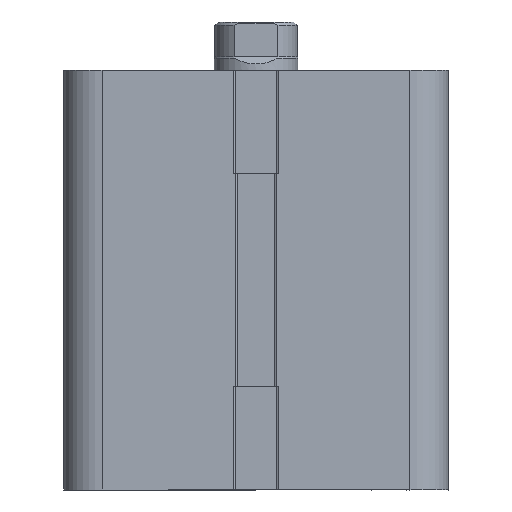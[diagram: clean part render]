
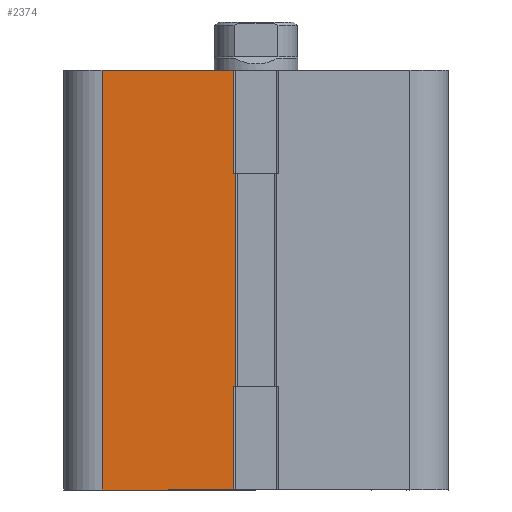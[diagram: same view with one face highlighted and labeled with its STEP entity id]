
A CAD part, front view. The second image highlights one B-rep face of the part: STEP entity #2374.
In plain terms, the highlighted planar face has unit normal (0, -1, 0).
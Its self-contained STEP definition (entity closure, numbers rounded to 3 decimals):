
#582 = ORIENTED_EDGE ( 'NONE', *, *, #822, .F. ) ;
#583 = ORIENTED_EDGE ( 'NONE', *, *, #10327, .F. ) ;
#584 = ORIENTED_EDGE ( 'NONE', *, *, #2582, .T. ) ;
#585 = ORIENTED_EDGE ( 'NONE', *, *, #10328, .T. ) ;
#822 = EDGE_CURVE ( 'NONE', #12155, #12156, #9017, .T. ) ;
#1145 = LINE ( 'NONE', #1446, #1147 ) ;
#1147 = VECTOR ( 'NONE', #1447, 1000. ) ;
#1446 = CARTESIAN_POINT ( 'NONE',  ( -27.5, -27.5, 30.5 ) ) ;
#1447 = DIRECTION ( 'NONE',  ( 1., 0., 0. ) ) ;
#1655 = CARTESIAN_POINT ( 'NONE',  ( -3.15, -27.5, -14.75 ) ) ;
#1656 = CARTESIAN_POINT ( 'NONE',  ( -22., -27.5, -14.75 ) ) ;
#1727 = CARTESIAN_POINT ( 'NONE',  ( -22., -27.5, 45.25 ) ) ;
#1728 = CARTESIAN_POINT ( 'NONE',  ( -3.15, -27.5, 45.25 ) ) ;
#1841 = CARTESIAN_POINT ( 'NONE',  ( -3.15, -27.5, 30.5 ) ) ;
#1842 = CARTESIAN_POINT ( 'NONE',  ( -2.875, -27.5, 30.5 ) ) ;
#1982 = CARTESIAN_POINT ( 'NONE',  ( -3.15, -27.5, 0. ) ) ;
#2030 = CARTESIAN_POINT ( 'NONE',  ( -2.875, -27.5, 0. ) ) ;
#2374 = ADVANCED_FACE ( 'NONE', ( #9318 ), #5903, .F. ) ;
#2582 = EDGE_CURVE ( 'NONE', #12484, #12532, #3232, .T. ) ;
#2721 = EDGE_CURVE ( 'NONE', #12227, #12228, #3446, .T. ) ;
#2937 = DIRECTION ( 'NONE',  ( 1., 0., 0. ) ) ;
#2941 = CARTESIAN_POINT ( 'NONE',  ( -27.5, -27.5, 0. ) ) ;
#3232 = LINE ( 'NONE', #2941, #3234 ) ;
#3234 = VECTOR ( 'NONE', #2937, 1000. ) ;
#3446 = LINE ( 'NONE', #6477, #3448 ) ;
#3448 = VECTOR ( 'NONE', #6478, 1000. ) ;
#4962 = CARTESIAN_POINT ( 'NONE',  ( -2.95, -27.5, -14.75 ) ) ;
#4963 = DIRECTION ( 'NONE',  ( -1., 0., 0. ) ) ;
#5482 = AXIS2_PLACEMENT_3D ( 'NONE', #5896, #5905, #5906 ) ;
#5896 = CARTESIAN_POINT ( 'NONE',  ( -27.5, -27.5, 30.5 ) ) ;
#5903 = PLANE ( 'NONE',  #5482 ) ;
#5905 = DIRECTION ( 'NONE',  ( 0., 1., 0. ) ) ;
#5906 = DIRECTION ( 'NONE',  ( 0., 0., 1. ) ) ;
#6477 = CARTESIAN_POINT ( 'NONE',  ( -27.5, -27.5, 45.25 ) ) ;
#6478 = DIRECTION ( 'NONE',  ( 1., 0., 0. ) ) ;
#7195 = CARTESIAN_POINT ( 'NONE',  ( -22., -27.5, 30.5 ) ) ;
#7196 = DIRECTION ( 'NONE',  ( 0., 0., -1. ) ) ;
#7197 = CARTESIAN_POINT ( 'NONE',  ( -3.15, -27.5, 108.982 ) ) ;
#7198 = DIRECTION ( 'NONE',  ( 0., 0., -1. ) ) ;
#7199 = CARTESIAN_POINT ( 'NONE',  ( -2.875, -27.5, 30.5 ) ) ;
#7200 = DIRECTION ( 'NONE',  ( 0., 0., 1. ) ) ;
#7201 = CARTESIAN_POINT ( 'NONE',  ( -3.15, -27.5, 108.982 ) ) ;
#7203 = DIRECTION ( 'NONE',  ( 0., 0., -1. ) ) ;
#7445 = LINE ( 'NONE', #7195, #7448 ) ;
#7447 = LINE ( 'NONE', #7197, #7450 ) ;
#7448 = VECTOR ( 'NONE', #7196, 1000. ) ;
#7449 = LINE ( 'NONE', #7199, #7452 ) ;
#7450 = VECTOR ( 'NONE', #7198, 1000. ) ;
#7451 = LINE ( 'NONE', #7201, #7454 ) ;
#7452 = VECTOR ( 'NONE', #7200, 1000. ) ;
#7454 = VECTOR ( 'NONE', #7203, 1000. ) ;
#7842 = ORIENTED_EDGE ( 'NONE', *, *, #11361, .F. ) ;
#7843 = ORIENTED_EDGE ( 'NONE', *, *, #10329, .F. ) ;
#7844 = ORIENTED_EDGE ( 'NONE', *, *, #2721, .F. ) ;
#8291 = ORIENTED_EDGE ( 'NONE', *, *, #10326, .T. ) ;
#8352 = EDGE_LOOP ( 'NONE', ( #8291, #582, #583, #584, #585, #7842, #7843, #7844 ) ) ;
#9017 = LINE ( 'NONE', #4962, #9020 ) ;
#9020 = VECTOR ( 'NONE', #4963, 1000. ) ;
#9318 = FACE_OUTER_BOUND ( 'NONE', #8352, .T. ) ;
#10326 = EDGE_CURVE ( 'NONE', #12227, #12156, #7445, .T. ) ;
#10327 = EDGE_CURVE ( 'NONE', #12484, #12155, #7447, .T. ) ;
#10328 = EDGE_CURVE ( 'NONE', #12532, #12344, #7449, .T. ) ;
#10329 = EDGE_CURVE ( 'NONE', #12228, #12343, #7451, .T. ) ;
#11361 = EDGE_CURVE ( 'NONE', #12343, #12344, #1145, .T. ) ;
#12155 = VERTEX_POINT ( 'NONE', #1655 ) ;
#12156 = VERTEX_POINT ( 'NONE', #1656 ) ;
#12227 = VERTEX_POINT ( 'NONE', #1727 ) ;
#12228 = VERTEX_POINT ( 'NONE', #1728 ) ;
#12343 = VERTEX_POINT ( 'NONE', #1841 ) ;
#12344 = VERTEX_POINT ( 'NONE', #1842 ) ;
#12484 = VERTEX_POINT ( 'NONE', #1982 ) ;
#12532 = VERTEX_POINT ( 'NONE', #2030 ) ;
